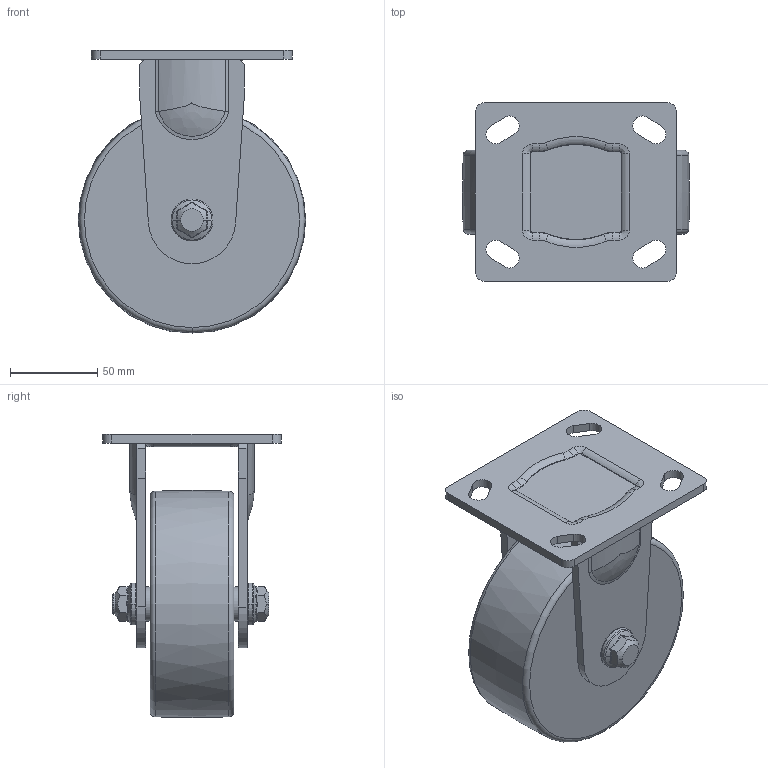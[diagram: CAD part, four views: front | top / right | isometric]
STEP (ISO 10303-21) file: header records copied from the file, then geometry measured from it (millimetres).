
FILE_DESCRIPTION((''),'2;1');
FILE_NAME('PM-130-ARF-MCD.stp','2013-04-30T10:51:25',(''),(''),'Mechanical Desktop 2009','Mechanical Desktop 2009',', , ');
FILE_SCHEMA(('CONFIG_CONTROL_DESIGN'));
Length unit declared in the file: millimetre
Products named in the file (2): PM-130-ARF-MCD; RF-PLATE
Assembly tree (1 placements, depth 2):
  PM-130-ARF-MCD
    RF-PLATE
Bounding box: 130 x 102 x 161.95 mm (x, y, z)
Volume: 758336.8 mm3; surface area: 97314.1 mm2
Topology: 1 solids, 1 shells, 191 faces, 488 edges, 306 vertices
Faces by surface type: plane 57, cylinder 56, bspline 30, torus 24, cone 24
Entity records: 7291 total; most frequent: CARTESIAN_POINT 2693, ORIENTED_EDGE 976, DIRECTION 914, EDGE_CURVE 488, AXIS2_PLACEMENT_3D 357, VERTEX_POINT 306, EDGE_LOOP 208, VECTOR 200
